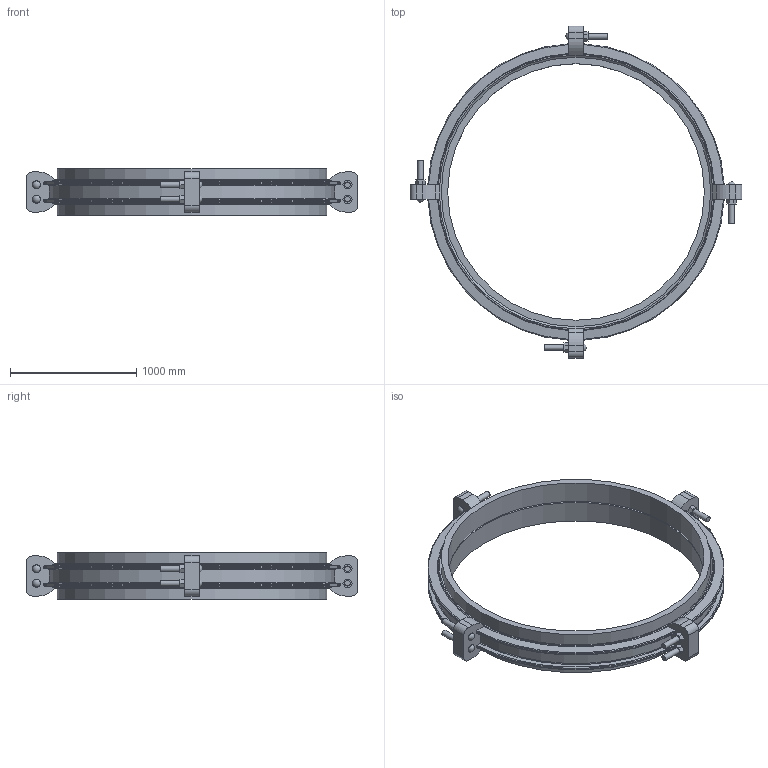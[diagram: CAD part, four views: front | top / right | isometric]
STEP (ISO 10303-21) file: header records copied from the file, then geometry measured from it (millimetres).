
FILE_DESCRIPTION(/* description */ ('VIC COUPLING FLEX STYLE W77 AGS VIC-RING ','CAx-IF Rec.Pracs.---Representation and Presentation of Product Manufacturing Information (PMI)---4.0---2014-10-13'),/* implementation_level */ '2;1');
FILE_NAME(/* name */ 'C:\Users\Vjadhav\AppData\Roaming\Autodesk\ApplicationPlugins\Victaulic.Temp\A52\Victaulic_Vic-Ring_Coupling Flexible_Style W77 (AGR)_84 (2100).stp',/* time_stamp */ '2021-12-20T11:07:52+06:00',/* author */ ('Vjadhav'),/* organization */ ('Victaulic'),/* preprocessor_version */ 'ST-DEVELOPER v17.2',/* originating_system */ 'Autodesk Inventor 2019',/* authorisation */ '');
FILE_SCHEMA (('AP242_MANAGED_MODEL_BASED_3D_ENGINEERING_MIM_LF { 1 0 10303 442 1 1 4 }'));
Length unit declared in the file: inch
Products named in the file (3): W77 VR-84.0; W77-VR-84.0; W77 VR-84.0_1
Assembly tree (3 placements, depth 2):
  W77 VR-84.0
    W77-VR-84.0
    W77 VR-84.0_1  x2
Bounding box: 2628.9 x 2628.9 x 367.54 mm (x, y, z)
Volume: 242538981.4 mm3; surface area: 11549201.4 mm2
Topology: 3 solids, 19 shells, 287 faces, 705 edges, 480 vertices
Faces by surface type: plane 138, cylinder 91, torus 32, cone 18, sphere 8
Full cylindrical faces by diameter (mm): 44.45 x8, 63.5 x8, 2032 x2, 2114.55 x1, 2133.6 x4
Entity records: 9773 total; most frequent: CARTESIAN_POINT 2608, DIRECTION 1433, ORIENTED_EDGE 1390, EDGE_CURVE 695, AXIS2_PLACEMENT_3D 545, VERTEX_POINT 472, LINE 343, VECTOR 343
